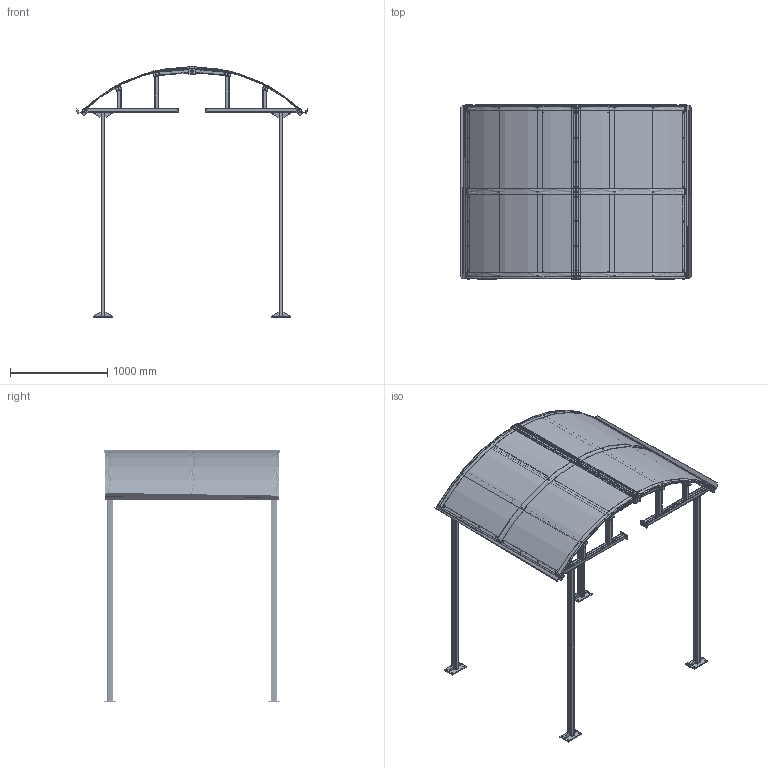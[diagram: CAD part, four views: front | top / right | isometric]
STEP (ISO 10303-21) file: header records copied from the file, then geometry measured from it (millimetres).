
FILE_DESCRIPTION(/* description */ ('Unknown'),/* implementation_level */ '2;1');
FILE_NAME(/* name */ 'RTD-15.3.400.00 Крыша турникета RTC-15.3R',/* time_stamp */ '2021-11-22T12:37:31+03:00',/* author */ ('Unknown'),/* organization */ ('Unknown'),/* preprocessor_version */ 'ST-DEVELOPER v18.1',/* originating_system */ 'Solid Edge',/* authorisation */ 'Unknown');
FILE_SCHEMA (('AUTOMOTIVE_DESIGN {1 0 10303 214 3 1 1}'));
Length unit declared in the file: millimetre
Products named in the file (58): RTD-15.3.400.00 Êðûøà òóðíèêåòà RTC-15.3R; RTD-15.3.406.00 Êàðêàñ êðûøè â ñáîðå; RTD-15.3.408.00 Êàðêàñ êðûøè; RTD-15.3.408.01 ﾒ矜; RTD-15.3.408.04 ﾒ矜; RTD-15.3.408.06 砑僔蠂縺; RTD-15.3.408.03 ﾒ矜; RTD-15.3.408.08 ﾒ矜; RTD-15.3.408.02 ﾒ矜; RTD-15.3.408.05 ﾒ矜; RTD-15.3.408.09 ﾒ矜; RTD-15.3.408.07 ﾒ矜; RTD-15.3.406.02 砑僔蠂縺; RTD-15.000.01 Çàãëóøêà 60õ40; RTD-15.3.406.03 ﾎ鞣; RTD-15.3.406.06 Ïðîôèëü; Ñàìîðåç_4,2x32_äëÿ_òîíêèõ_ïëàñòèí; RTD-15.3.406.04 Ïëàñòèíà_äëÿ ñáîðêè; RTD-15.3.406.01 Ëèñò_äëÿ ñáîðêè; RTD-15.3.406.05 Ïðîôèëü_äëÿ ñáîðêè; Çàêëåïêà_ðåçüáîâàÿ_Ì6_FTT.C_0,5...3,0_oa_0; Çàêëåïêà_ðåçüáîâàÿ_Ì6_FTT.C_0,5...3,0_oa_1; Çàêëåïêà_ðåçüáîâàÿ_Ì6_FTT.C_0,5...3,0_oa_2; Çàêëåïêà_ðåçüáîâàÿ_Ì6_FTT.C_0,5...3,0_oa_3; Çàêëåïêà_ðåçüáîâàÿ_Ì6_FTT.C_0,5...3,0_oa_4; Çàêëåïêà_ðåçüáîâàÿ_Ì6_FTT.C_0,5...3,0_oa_5; Çàêëåïêà_ðåçüáîâàÿ_Ì6_FTT.C_0,5...3,0_oa_6; Çàêëåïêà_ðåçüáîâàÿ_Ì6_FTT.C_0,5...3,0_oa_7; Çàêëåïêà_ðåçüáîâàÿ_Ì6_FTS.C_1,5...3,8_oa_8; Çàêëåïêà_ðåçüáîâàÿ_Ì6_FTS.C_1,5...3,8_oa_9; Çàêëåïêà_ðåçüáîâàÿ_Ì6_FTS.C_1,5...3,8_oa_10; Çàêëåïêà_ðåçüáîâàÿ_Ì6_FTS.C_1,5...3,8_oa_11; Çàêëåïêà_ðåçüáîâàÿ_Ì6_FTS.C_1,5...3,8_oa_12; RTD-15.3.407.00 栺鍣罻; RTD-15.3.407.02 砑僔蠂縺; RTD-15.441.03-02 砑僔蠂縺; ﾌﾂ-15.000.06 ﾐ裔; RTD-15.3.407.01 ﾒ矜; 嵑殧趌6_DIN_125; 嵑殧趌6_DIN_127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
Assembly tree (231 placements, depth 4):
  RTD-15.3.400.00 Êðûøà òóðíèêåòà RTC-15.3R
    RTD-15.3.406.00 Êàðêàñ êðûøè â ñáîðå
      RTD-15.3.408.00 Êàðêàñ êðûøè
        RTD-15.3.408.01 ﾒ矜  x2
        RTD-15.3.408.04 ﾒ矜
        RTD-15.3.408.06 砑僔蠂縺  x2
        RTD-15.3.408.03 ﾒ矜  x2
        RTD-15.3.408.08 ﾒ矜
        RTD-15.3.408.02 ﾒ矜  x2
        RTD-15.3.408.05 ﾒ矜
        RTD-15.3.408.09 ﾒ矜  x2
        RTD-15.3.408.07 ﾒ矜
      RTD-15.3.406.02 砑僔蠂縺  x2
      RTD-15.000.01 Çàãëóøêà 60õ40  x8
      RTD-15.3.406.03 ﾎ鞣
      RTD-15.3.406.06 Ïðîôèëü  x2
      Ñàìîðåç_4,2x32_äëÿ_òîíêèõ_ïëàñòèí  x28
      RTD-15.3.406.04 Ïëàñòèíà_äëÿ ñáîðêè  x3
      RTD-15.3.406.01 Ëèñò_äëÿ ñáîðêè
      RTD-15.3.406.05 Ïðîôèëü_äëÿ ñáîðêè  x2
      Çàêëåïêà_ðåçüáîâàÿ_Ì6_FTT.C_0,5...3,0_oa_0
      Çàêëåïêà_ðåçüáîâàÿ_Ì6_FTT.C_0,5...3,0_oa_1
      Çàêëåïêà_ðåçüáîâàÿ_Ì6_FTT.C_0,5...3,0_oa_2
      Çàêëåïêà_ðåçüáîâàÿ_Ì6_FTT.C_0,5...3,0_oa_3
      Çàêëåïêà_ðåçüáîâàÿ_Ì6_FTT.C_0,5...3,0_oa_4
      Çàêëåïêà_ðåçüáîâàÿ_Ì6_FTT.C_0,5...3,0_oa_5
      Çàêëåïêà_ðåçüáîâàÿ_Ì6_FTT.C_0,5...3,0_oa_6
      Çàêëåïêà_ðåçüáîâàÿ_Ì6_FTT.C_0,5...3,0_oa_7
      Çàêëåïêà_ðåçüáîâàÿ_Ì6_FTS.C_1,5...3,8_oa_8
      Çàêëåïêà_ðåçüáîâàÿ_Ì6_FTS.C_1,5...3,8_oa_9
      Çàêëåïêà_ðåçüáîâàÿ_Ì6_FTS.C_1,5...3,8_oa_10
      Çàêëåïêà_ðåçüáîâàÿ_Ì6_FTS.C_1,5...3,8_oa_11
      Çàêëåïêà_ðåçüáîâàÿ_Ì6_FTS.C_1,5...3,8_oa_12
    RTD-15.3.407.00 栺鍣罻  x4
      RTD-15.3.407.02 砑僔蠂縺
      RTD-15.441.03-02 砑僔蠂縺
      ﾌﾂ-15.000.06 ﾐ裔
      RTD-15.3.407.01 ﾒ矜
    嵑殧趌6_DIN_125  x16
    嵑殧趌6_DIN_127  x21
    鎔艜_M6x20_DIN_912  x21
    RTD-15.3.409.00 砑僔蠂縺
      RTD-15.3.409.01 砑僔蠂縺
      RTD-16.1.415.02 砑僔蠂縺  x2
      RTD-15.3.409.03 Óïëîòíèòåëü  x2
    Ñàìîðåç_4,2x16_äëÿ_òîíêèõ_ïëàñòèí  x4
    Çàãëóøêà 62MP0625 (d îòâ. 16, ÷åðíàÿ)  x5
    RTD-15.3.406.00-01 Êàðêàñ êðûøè â ñáîðå
      RTD-15.3.408.00-01 Êàðêàñ êðûøè
        RTD-15.3.408.01 ﾒ矜  x2
        RTD-15.3.408.04 ﾒ矜
        RTD-15.3.408.06 砑僔蠂縺  x2
        RTD-15.3.408.03 ﾒ矜  x2
        RTD-15.3.408.08 ﾒ矜
        RTD-15.3.408.02 ﾒ矜  x2
        RTD-15.3.408.05 ﾒ矜
        RTD-15.3.408.09 ﾒ矜  x2
        RTD-15.3.408.07-01 ﾒ矜
      RTD-15.3.406.02 砑僔蠂縺  x2
      RTD-15.000.01 Çàãëóøêà 60õ40  x8
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Bounding box: 2379.77 x 1807 x 2595.41 mm (x, y, z)
Volume: 69315929.1 mm3; surface area: 26027956.3 mm2
Topology: 243 solids, 303 shells, 6966 faces, 16003 edges, 10009 vertices
Faces by surface type: plane 3942, cylinder 2005, torus 725, cone 170, sphere 120, bspline 4
Full cylindrical faces by diameter (mm): 4.2 x60, 4.773 x21, 4.917 x21, 5 x56, 6 x46, 6.4 x16, 7.8 x21, 8 x21, 8.9 x42, 9 x21, 10 x45, 11.4 x60, 11.8 x5, 12 x48, 13 x5, 15 x16, 16 x10, 18 x5
Entity records: 34930 total; most frequent: DIRECTION 5819, CARTESIAN_POINT 5432, ORIENTED_EDGE 4444, AXIS2_PLACEMENT_3D 2348, EDGE_CURVE 2222, FACE_BOUND 1667, EDGE_LOOP 1665, VERTEX_POINT 1601
